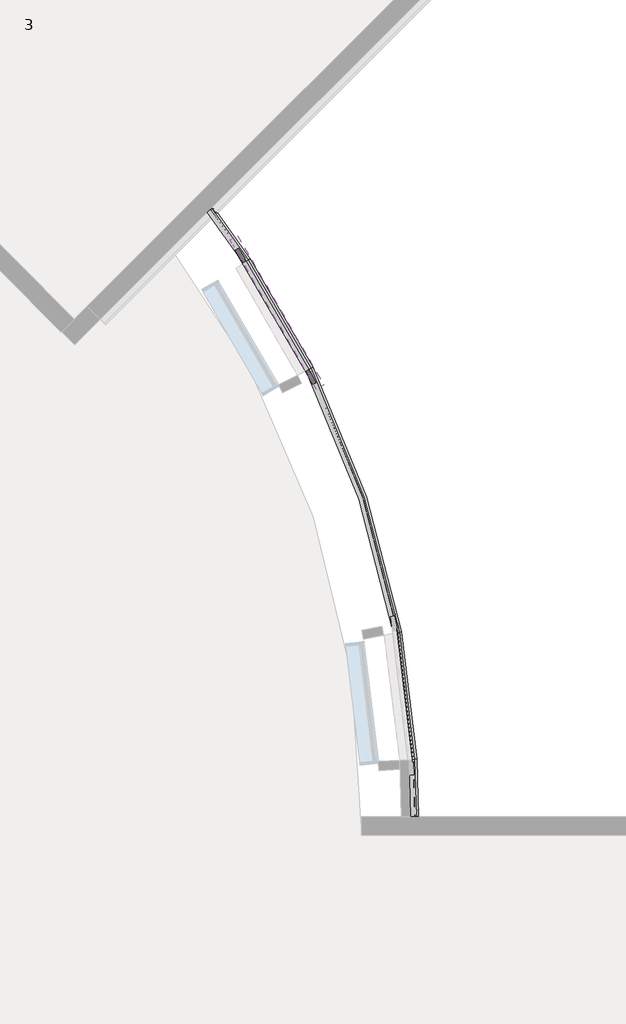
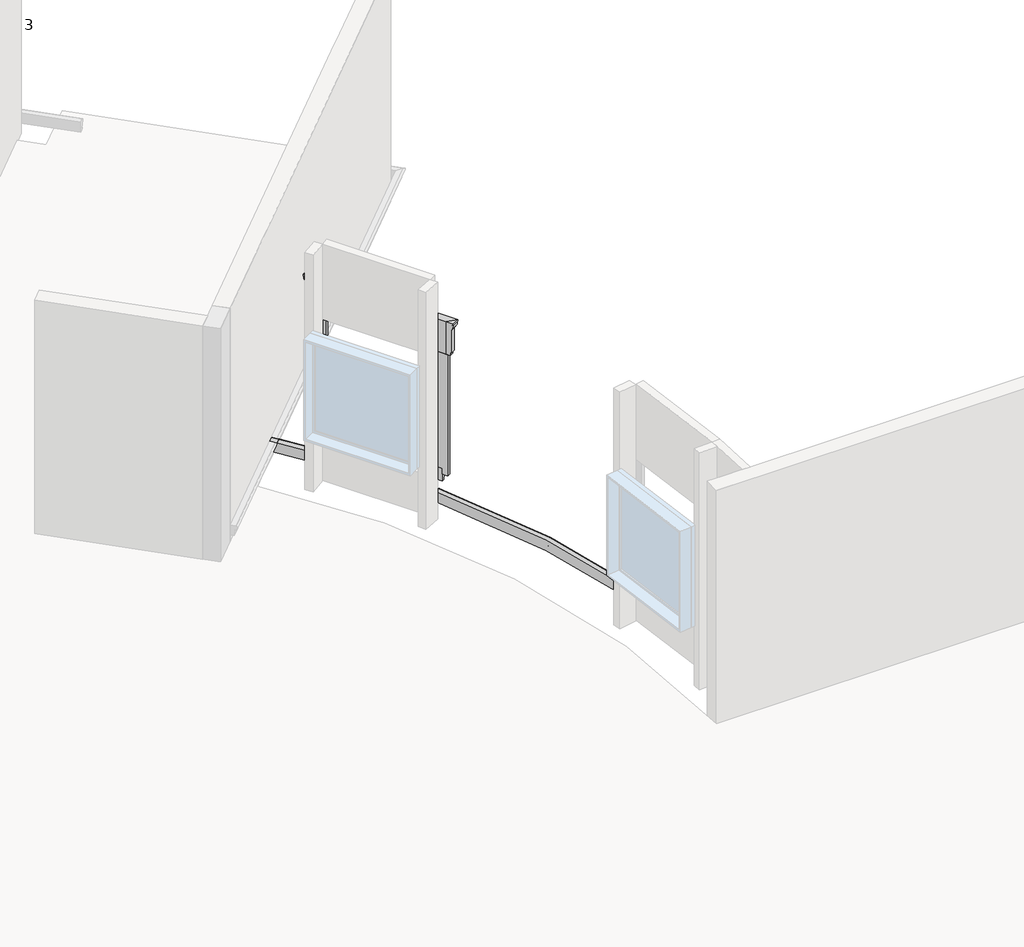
# One storey, part 11 of 12: 5 proxies.
"""IFC4 building model written with IfcOpenShell, lengths in millimetres."""

from ifc_helpers import new_model, si_unit, point, frame, origin, place, context, project, spatial, polyline, circle_curve, ellipse_curve, trimmed, outline, extrude, element, save
from ifc_brep_helpers import plane_surface, cylinder_surface, revolved_surface, advanced_brep

model = new_model("IFC4")

# Units and contexts
model_context = context("Model", 3, world=origin())
ifc_project = project(units=[si_unit("LENGTHUNIT", "METRE", prefix="MILLI")], contexts=[model_context])

# Site, building, storey
site = spatial("IfcSite", under=ifc_project)
building = spatial("IfcBuilding", under=site)
storey = spatial("IfcBuildingStorey", under=building, Name="3", Elevation=3581.4)

# Proxies
placement = place(None, origin())
element("IfcBuildingElementProxy", 1, Name="Cornice", ObjectType="Cornice", at=placement, inside=storey, context=model_context, shape_type="SweptSolid", body=[
    extrude(outline(polyline([(1846.6968284, 7574.7665697), (1888.9764904, 7602.9280715), (1973.4609956, 7476.0890854), (1962.8910801, 7469.04871), (1980.4920187, 7442.6239212), (1948.7822721, 7421.5027949), (1846.6968284, 7574.7665697)])), frame((0.0, 0.0, 4191.0), z_axis=(0.0, 0.0, 1.0), x_axis=(1.0, 0.0, 0.0)), (0.0, 0.0, 1.0), 1828.8),
])
element("IfcBuildingElementProxy", 2, Name="Cornice", ObjectType="Cornice", at=placement, inside=storey, context=model_context, shape_type="SweptSolid", body=[
    extrude(outline(polyline([(2811.2385961, 5908.9981237), (2729.1339635, 6073.8315299), (2763.2374269, 6090.8186953), (2777.393398, 6062.3991425), (2788.7612191, 6068.0615309), (2856.7098806, 5931.6476775), (2811.2385961, 5908.9981237)])), frame((0.0, 0.0, 4191.0), z_axis=(0.0, 0.0, 1.0), x_axis=(1.0, 0.0, 0.0)), (0.0, 0.0, 1.0), 1828.8),
])
element("IfcBuildingElementProxy", 3, Name="Cornice", ObjectType="Cornice", at=placement, inside=storey, context=model_context, shape_type="AdvancedBrep", body=[
    advanced_brep(
    [(1867.4940839, 7542.0087132, 4273.55), (1909.4412788, 7570.6630817, 4273.55), (1909.4412788, 7570.6630817, 4121.15), (1898.9544801, 7563.4994896, 4121.15), (1898.9544801, 7563.4994896, 4089.4), (1867.4940839, 7542.0087132, 4089.4), (2774.0648933, 5982.6959353, 4273.55), (2774.0648933, 5982.6959353, 4089.4), (2808.3061816, 5999.4035436, 4089.4), (2808.3061816, 5999.4035436, 4121.15), (2819.7199443, 6004.9727464, 4121.15), (2819.7199443, 6004.9727464, 4273.55)],
    [
        (0, 1),
        (1, 2),
        (2, 3),
        (3, 4),
        (4, 5),
        (5, 0),
        (6, 7),
        (7, 8),
        (8, 9),
        (9, 10),
        (10, 11),
        (11, 6),
        (11, 1, circle_curve(frame((-8388.5950907, 536.015621, 4273.55), z_axis=(0.0, 0.0, 1.0), x_axis=(0.825732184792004, 0.5640623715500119, 0.0)), 12471.4000002)),
        (0, 6, circle_curve(frame((-8388.5950907, 536.015621, 4273.55), z_axis=(0.0, 0.0, -1.0), x_axis=(0.825732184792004, 0.5640623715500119, 0.0)), 12420.6000002)),
        (10, 2, circle_curve(frame((-8388.5950907, 536.015621, 4121.15), z_axis=(0.0, 0.0, 1.0), x_axis=(0.825732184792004, 0.5640623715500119, 0.0)), 12471.4000002)),
        (9, 3, circle_curve(frame((-8388.5950907, 536.015621, 4121.15), z_axis=(0.0, 0.0, 1.0), x_axis=(0.825732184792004, 0.5640623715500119, 0.0)), 12458.7000002)),
        (8, 4, circle_curve(frame((-8388.5950907, 536.015621, 4089.4), z_axis=(0.0, 0.0, 1.0), x_axis=(0.825732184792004, 0.5640623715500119, 0.0)), 12458.7000002)),
        (7, 5, circle_curve(frame((-8388.5950907, 536.015621, 4089.4), z_axis=(0.0, 0.0, 1.0), x_axis=(0.825732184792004, 0.5640623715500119, 0.0)), 12420.6000002)),
    ],
    [
        plane_surface(frame((-8388.5950907, 536.015621, 4089.4), z_axis=(-0.5640623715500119, 0.825732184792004, 0.0), x_axis=(0.825732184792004, 0.5640623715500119, 0.0))),
        plane_surface(frame((-8388.5950907, 536.015621, 4089.4), z_axis=(0.43851990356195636, -0.8987214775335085, 0.0), x_axis=(0.8987214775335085, 0.43851990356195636, 0.0))),
        plane_surface(frame((-8388.5950907, 536.015621, 4273.55), z_axis=(0.0, 0.0, 1.0), x_axis=(0.825732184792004, 0.5640623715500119, 0.0))),
        cylinder_surface(frame((-8388.5950907, 536.015621, 4089.4), z_axis=(0.0, 0.0, -1.0), x_axis=(0.825732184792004, 0.5640623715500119, 0.0)), 12471.4000002),
        plane_surface(frame((-8388.5950907, 536.015621, 4121.15), z_axis=(0.0, 0.0, -1.0), x_axis=(0.825732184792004, 0.5640623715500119, 0.0))),
        cylinder_surface(frame((-8388.5950907, 536.015621, 4089.4), z_axis=(0.0, 0.0, -1.0), x_axis=(0.825732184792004, 0.5640623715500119, 0.0)), 12458.7000002),
        plane_surface(frame((-8388.5950907, 536.015621, 4089.4), z_axis=(0.0, 0.0, -1.0), x_axis=(0.825732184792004, 0.5640623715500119, 0.0))),
        revolved_surface(polyline([(1867.4940838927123, 7542.008713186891, 4089.4), (1867.4940838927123, 7542.008713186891, 4273.55)]), (-8388.5950907, 536.015621, 4089.4), (0.0, 0.0, -1.0)),
    ],
    [
        (0, [[1, 2, 3, 4, 5, 6]]),
        (1, [[7, 8, 9, 10, 11, 12]]),
        (2, [[13, -1, 14, -12]]),
        (3, [[15, -2, -13, -11]]),
        (4, [[16, -3, -15, -10]]),
        (5, [[17, -4, -16, -9]]),
        (6, [[18, -5, -17, -8]]),
        (7, [[-14, -6, -18, -7]]),
    ],
),
])
element("IfcBuildingElementProxy", 4, Name="Cornice 2", ObjectType="Cornice 2", at=placement, inside=storey, context=model_context, shape_type="AdvancedBrep", body=[
    advanced_brep(
    [(1784.8464348, 7705.991218, 6515.1), (1784.8464348, 7705.991218, 6489.7), (1794.3884596, 7689.503275, 6489.7), (1794.3884596, 7689.503275, 6438.9), (1794.3884596, 7689.503275, 6419.85), (1802.1557463, 7676.0819539, 6419.85), (1802.1557463, 7676.0819539, 6064.25), (1808.5170961, 7665.0899919, 6064.25), (1808.5170961, 7665.0899919, 6019.8), (1838.9179087, 7612.5595413, 6019.8), (1838.9179087, 7612.5595413, 6515.1), (1878.2781115, 7760.0626919, 6515.1), (1878.2781115, 7760.0626919, 6489.7), (1871.3321933, 7734.0327241, 6489.7), (1871.3321933, 7734.0327241, 6438.9), (1871.3321933, 7734.0327241, 6419.85), (1865.6781589, 7712.8441163, 6419.85), (1865.6781589, 7712.8441163, 6064.25), (1861.0475468, 7695.4908045, 6064.25), (1861.0475468, 7695.4908045, 6019.8), (2953.3462404, 5902.4211204, 6515.1), (2953.3462404, 5902.4211204, 6489.7), (2927.3162726, 5909.3670385, 6489.7), (2927.3162726, 5909.3670385, 6438.9), (2927.3162726, 5909.3670385, 6419.85), (2906.1276648, 5915.021073, 6419.85), (2906.1276648, 5915.021073, 6064.25), (2888.774353, 5919.6516851, 6064.25), (2888.774353, 5919.6516851, 6019.8), (2805.8430898, 5941.7813231, 6019.8), (2805.8430898, 5941.7813231, 6515.1), (2859.9145637, 5848.3496465, 6515.1), (2836.2439024, 5889.2508725, 6019.8), (2836.2439024, 5889.2508725, 6064.25), (2842.6052522, 5878.2589106, 6064.25), (2842.6052522, 5878.2589106, 6419.85), (2850.3725389, 5864.8375894, 6419.85), (2850.3725389, 5864.8375894, 6438.9), (2850.3725389, 5864.8375894, 6489.7), (2859.9145637, 5848.3496465, 6489.7)],
    [
        (0, 1),
        (1, 2),
        (2, 3, circle_curve(frame((1800.6135369, 7678.7467824, 6464.3), z_axis=(-0.8655088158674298, -0.500893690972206, 0.0), x_axis=(-0.500893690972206, 0.8655088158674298, 0.0)), 28.2774419)),
        (3, 4),
        (4, 5),
        (5, 6),
        (6, 7),
        (7, 8),
        (8, 9),
        (9, 10),
        (10, 0),
        (0, 11),
        (11, 12),
        (12, 1),
        (12, 13),
        (13, 2),
        (13, 14, ellipse_curve(frame((1866.800778, 7717.0511542, 6464.3), z_axis=(-0.9661924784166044, 0.2578218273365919, 0.0), x_axis=(-0.2578218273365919, -0.9661924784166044, 0.0)), 39.9903419, 28.2774419)),
        (14, 3),
        (14, 15),
        (15, 4),
        (15, 16),
        (16, 5),
        (16, 17),
        (17, 6),
        (17, 18),
        (18, 7),
        (18, 19),
        (19, 8),
        (19, 9),
        (10, 11),
        (11, 20),
        (20, 21),
        (21, 12),
        (21, 22),
        (22, 13),
        (22, 23, ellipse_curve(frame((2910.3347027, 5913.8984539, 6464.3), z_axis=(0.2578218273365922, 0.9661924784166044, 0.0), x_axis=(-0.9661924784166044, 0.25782182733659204, 0.0)), 39.9903419, 28.2774419)),
        (23, 14),
        (23, 24),
        (24, 15),
        (24, 25),
        (25, 16),
        (25, 26),
        (26, 17),
        (26, 27),
        (27, 18),
        (27, 28),
        (28, 19),
        (28, 29),
        (29, 9),
        (29, 30),
        (30, 10),
        (30, 20),
        (31, 30),
        (29, 32),
        (32, 33),
        (33, 34),
        (34, 35),
        (35, 36),
        (36, 37),
        (37, 38, circle_curve(frame((2844.1474616, 5875.594082, 6464.3), z_axis=(-0.8655088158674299, -0.5008936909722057, 0.0), x_axis=(0.5008936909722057, -0.8655088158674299, 0.0)), 28.2774419)),
        (38, 39),
        (39, 31),
        (20, 31),
        (39, 21),
        (38, 22),
        (37, 23),
        (36, 24),
        (35, 25),
        (34, 26),
        (33, 27),
        (32, 28),
    ],
    [
        plane_surface(frame((1955.0831827, 7411.8341767, 6019.8), z_axis=(-0.8655088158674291, -0.5008936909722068, 0.0), x_axis=(-0.5008936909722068, 0.8655088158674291, 0.0))),
        plane_surface(frame((1784.8464348, 7705.991218, 6515.1), z_axis=(-0.5008936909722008, 0.8655088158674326, 0.0), x_axis=(0.8655088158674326, 0.5008936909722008, 0.0))),
        plane_surface(frame((1784.8464348, 7705.991218, 6489.7), z_axis=(0.0, 0.0, -1.0), x_axis=(0.8655088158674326, 0.5008936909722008, 0.0))),
        cylinder_surface(frame((1800.6135369, 7678.7467824, 6464.3), z_axis=(-0.8655088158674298, -0.500893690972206, 0.0), x_axis=(-0.500893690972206, 0.8655088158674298, 0.0)), 28.2774419),
        plane_surface(frame((1794.3884596, 7689.503275, 6438.9), z_axis=(-0.500893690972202, 0.8655088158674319, 0.0), x_axis=(0.8655088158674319, 0.500893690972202, 0.0))),
        plane_surface(frame((1794.3884596, 7689.503275, 6419.85), z_axis=(0.0, 0.0, -1.0), x_axis=(0.8655088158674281, 0.5008936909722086, 0.0))),
        plane_surface(frame((1802.1557463, 7676.0819539, 6419.85), z_axis=(-0.500893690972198, 0.8655088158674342, 0.0), x_axis=(0.8655088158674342, 0.500893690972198, 0.0))),
        plane_surface(frame((1802.1557463, 7676.0819539, 6064.25), z_axis=(0.0, 0.0, -1.0), x_axis=(0.8655088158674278, 0.5008936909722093, 0.0))),
        plane_surface(frame((1808.5170961, 7665.0899919, 6064.25), z_axis=(-0.5008936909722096, 0.8655088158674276, 0.0), x_axis=(0.8655088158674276, 0.5008936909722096, 0.0))),
        plane_surface(frame((1808.5170961, 7665.0899919, 6019.8), z_axis=(0.0, 0.0, -1.0), x_axis=(0.8655088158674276, 0.5008936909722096, 0.0))),
        plane_surface(frame((1838.9179087, 7612.5595413, 6515.1), z_axis=(0.0, 0.0, 1.0000000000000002), x_axis=(0.8655088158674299, 0.5008936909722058, 0.0))),
        plane_surface(frame((1878.2781115, 7760.0626919, 6515.1), z_axis=(0.8655088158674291, 0.5008936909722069, 0.0), x_axis=(0.5008936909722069, -0.8655088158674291, 0.0))),
        plane_surface(frame((1878.2781115, 7760.0626919, 6489.7), z_axis=(0.0, 0.0, -1.0), x_axis=(0.5008936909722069, -0.8655088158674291, 0.0))),
        cylinder_surface(frame((1905.1051498, 7650.8639131, 6464.3), z_axis=(-0.5008936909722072, 0.865508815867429, 0.0), x_axis=(0.865508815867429, 0.5008936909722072, 0.0)), 28.2774419),
        plane_surface(frame((1871.3321933, 7734.0327241, 6438.9), z_axis=(0.8655088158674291, 0.5008936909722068, 0.0), x_axis=(0.5008936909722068, -0.8655088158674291, 0.0))),
        plane_surface(frame((1871.3321933, 7734.0327241, 6419.85), z_axis=(0.0, 0.0, -1.0000000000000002), x_axis=(0.500893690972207, -0.8655088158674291, 0.0))),
        plane_surface(frame((1865.6781589, 7712.8441163, 6419.85), z_axis=(0.8655088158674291, 0.5008936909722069, 0.0), x_axis=(0.5008936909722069, -0.8655088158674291, 0.0))),
        plane_surface(frame((1865.6781589, 7712.8441163, 6064.25), z_axis=(0.0, 0.0, -1.0000000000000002), x_axis=(0.5008936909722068, -0.8655088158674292, 0.0))),
        plane_surface(frame((1861.0475468, 7695.4908045, 6064.25), z_axis=(0.8655088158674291, 0.5008936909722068, 0.0), x_axis=(0.5008936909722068, -0.8655088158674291, 0.0))),
        plane_surface(frame((1861.0475468, 7695.4908045, 6019.8), z_axis=(0.0, 0.0, -1.0), x_axis=(0.5008936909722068, -0.8655088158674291, 0.0))),
        plane_surface(frame((1838.9179087, 7612.5595413, 6019.8), z_axis=(-0.865508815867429, -0.500893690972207, 0.0), x_axis=(0.500893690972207, -0.865508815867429, 0.0))),
        plane_surface(frame((1838.9179087, 7612.5595413, 6515.1), z_axis=(0.0, 0.0, 1.0), x_axis=(0.500893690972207, -0.865508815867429, 0.0))),
        plane_surface(frame((2953.3462404, 5902.4211204, 6515.1), z_axis=(0.5008936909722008, -0.8655088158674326, 0.0), x_axis=(-0.8655088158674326, -0.5008936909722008, 0.0))),
        plane_surface(frame((2953.3462404, 5902.4211204, 6489.7), z_axis=(0.0, 0.0, -1.0), x_axis=(-0.8655088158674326, -0.5008936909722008, 0.0))),
        cylinder_surface(frame((2844.1474616, 5875.594082, 6464.3), z_axis=(0.8655088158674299, 0.5008936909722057, 0.0), x_axis=(0.5008936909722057, -0.8655088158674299, 0.0)), 28.2774419),
        plane_surface(frame((2927.3162726, 5909.3670385, 6438.9), z_axis=(0.5008936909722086, -0.8655088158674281, 0.0), x_axis=(-0.8655088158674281, -0.5008936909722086, 0.0))),
        plane_surface(frame((2927.3162726, 5909.3670385, 6419.85), z_axis=(0.0, 0.0, -1.0000000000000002), x_axis=(-0.8655088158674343, -0.500893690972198, 0.0))),
        plane_surface(frame((2906.1276648, 5915.021073, 6419.85), z_axis=(0.5008936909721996, -0.8655088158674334, 0.0), x_axis=(-0.8655088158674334, -0.5008936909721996, 0.0))),
        plane_surface(frame((2906.1276648, 5915.021073, 6064.25), z_axis=(0.0, 0.0, -1.0), x_axis=(-0.8655088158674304, -0.5008936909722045, 0.0))),
        plane_surface(frame((2888.774353, 5919.6516851, 6064.25), z_axis=(0.5008936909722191, -0.8655088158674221, 0.0), x_axis=(-0.8655088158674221, -0.5008936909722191, 0.0))),
        plane_surface(frame((2888.774353, 5919.6516851, 6019.8), z_axis=(0.0, 0.0, -1.0), x_axis=(-0.8655088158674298, -0.5008936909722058, 0.0))),
        plane_surface(frame((2805.8430898, 5941.7813231, 6515.1), z_axis=(0.0, 0.0, 1.0000000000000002), x_axis=(-0.8655088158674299, -0.5008936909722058, 0.0))),
    ],
    [
        (0, [[1, 2, 3, 4, 5, 6, 7, 8, 9, 10, 11]]),
        (1, [[-1, 12, 13, 14]]),
        (2, [[-2, -14, 15, 16]]),
        (3, [[-3, -16, 17, 18]]),
        (4, [[-4, -18, 19, 20]]),
        (5, [[-5, -20, 21, 22]]),
        (6, [[-6, -22, 23, 24]]),
        (7, [[-7, -24, 25, 26]]),
        (8, [[-8, -26, 27, 28]]),
        (9, [[-9, -28, 29]]),
        (10, [[-11, 30, -12]]),
        (11, [[-13, 31, 32, 33]]),
        (12, [[-15, -33, 34, 35]]),
        (13, [[-17, -35, 36, 37]]),
        (14, [[-19, -37, 38, 39]]),
        (15, [[-21, -39, 40, 41]]),
        (16, [[-23, -41, 42, 43]]),
        (17, [[-25, -43, 44, 45]]),
        (18, [[-27, -45, 46, 47]]),
        (19, [[-29, -47, 48, 49]]),
        (20, [[-10, -49, 50, 51]]),
        (21, [[-30, -51, 52, -31]]),
        (0, [[53, -50, 54, 55, 56, 57, 58, 59, 60, 61, 62]]),
        (22, [[-32, 63, -62, 64]]),
        (23, [[-34, -64, -61, 65]]),
        (24, [[-36, -65, -60, 66]]),
        (25, [[-38, -66, -59, 67]]),
        (26, [[-40, -67, -58, 68]]),
        (27, [[-42, -68, -57, 69]]),
        (28, [[-44, -69, -56, 70]]),
        (29, [[-46, -70, -55, 71]]),
        (30, [[-48, -71, -54]]),
        (31, [[-52, -53, -63]]),
    ],
),
])
element("IfcBuildingElementProxy", 5, Name="Cornice 3", ObjectType="Cornice 3", at=placement, inside=storey, context=model_context, shape_type="AdvancedBrep", body=[
    advanced_brep(
    [(4108.2045114, 532.861436, 3886.2), (4032.0045138, 532.8806689, 3886.2), (4032.0045138, 532.8806689, 3733.8), (4082.8045122, 532.867847, 3733.8), (4082.8045122, 532.867847, 3752.85), (4082.8045122, 532.867847, 3771.9), (4082.8045122, 532.867847, 3797.3), (4089.948262, 532.8660439, 3797.3), (4108.2045114, 532.861436, 3826.7009114), (4108.2045114, 532.861436, 3841.75), (4087.9843508, 1246.6320321, 3841.75), (4087.9843508, 1246.6320321, 3886.2), (4087.9843508, 1246.6320321, 3826.7009114), (4069.7576405, 1245.5939111, 3797.3), (4062.6254495, 1245.1876898, 3797.3), (4062.6254495, 1245.1876898, 3771.9), (4062.6254495, 1245.1876898, 3752.85), (4062.6254495, 1245.1876898, 3733.8), (4011.9076469, 1242.2990052, 3733.8), (4011.9076469, 1242.2990052, 3886.2)],
    [
        (0, 1),
        (1, 2),
        (2, 3),
        (3, 4),
        (4, 5, circle_curve(frame((4082.8045122, 532.867847, 3762.375), z_axis=(-0.00025239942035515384, -0.9999999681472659, 0.0), x_axis=(-0.9999999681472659, 0.00025239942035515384, 0.0)), 9.525)),
        (5, 6),
        (6, 7),
        (7, 8, circle_curve(frame((4111.4609098, 532.8606141, 3804.3103895), z_axis=(0.00025239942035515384, 0.9999999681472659, 0.0), x_axis=(-0.9999999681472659, 0.00025239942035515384, 0.0)), 22.6260824)),
        (8, 9),
        (9, 0, circle_curve(frame((4108.2045114, 532.861436, 3863.975), z_axis=(-0.00025239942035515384, -0.9999999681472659, 0.0), x_axis=(-0.9999999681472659, 0.00025239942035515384, 0.0)), 22.225)),
        (9, 10, circle_curve(frame((-8388.5950906, 536.0156211, 3841.75), z_axis=(0.0, 0.0, 1.0), x_axis=(0.9983819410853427, 0.05686387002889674, 0.0)), 12496.8)),
        (10, 11, circle_curve(frame((4087.9843508, 1246.6320321, 3863.975), z_axis=(0.05686387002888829, -0.9983819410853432, 0.0), x_axis=(-0.9983819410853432, -0.05686387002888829, 0.0)), 22.225)),
        (11, 0, circle_curve(frame((-8388.5950906, 536.0156211, 3886.2), z_axis=(0.0, 0.0, -1.0), x_axis=(0.9983819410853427, 0.05686387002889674, 0.0)), 12496.8)),
        (8, 12, circle_curve(frame((-8388.5950906, 536.0156211, 3826.7009114), z_axis=(0.0, 0.0, 1.0), x_axis=(0.9983819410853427, 0.05686387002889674, 0.0)), 12496.8)),
        (12, 10),
        (7, 13, circle_curve(frame((-8388.5950906, 536.0156211, 3797.3), z_axis=(0.0, 0.0, 1.0), x_axis=(0.9983819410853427, 0.05686387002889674, 0.0)), 12478.54375)),
        (13, 12, circle_curve(frame((4091.2354802, 1246.8172035, 3804.3103895), z_axis=(-0.056863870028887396, 0.9983819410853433, 0.0), x_axis=(-0.9983819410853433, -0.056863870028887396, 0.0)), 22.6260824)),
        (6, 14, circle_curve(frame((-8388.5950906, 536.0156211, 3797.3), z_axis=(0.0, 0.0, 1.0), x_axis=(0.9983819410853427, 0.05686387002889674, 0.0)), 12471.4)),
        (14, 13),
        (5, 15, circle_curve(frame((-8388.5950906, 536.0156211, 3771.9), z_axis=(0.0, 0.0, 1.0), x_axis=(0.9983819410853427, 0.05686387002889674, 0.0)), 12471.4)),
        (15, 14),
        (4, 16, circle_curve(frame((-8388.5950906, 536.0156211, 3752.85), z_axis=(0.0, 0.0, 1.0), x_axis=(0.9983819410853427, 0.05686387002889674, 0.0)), 12471.4)),
        (16, 15, circle_curve(frame((4062.6254495, 1245.1876898, 3762.375), z_axis=(0.05686387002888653, -0.9983819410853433, 0.0), x_axis=(-0.9983819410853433, -0.05686387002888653, 0.0)), 9.525)),
        (3, 17, circle_curve(frame((-8388.5950906, 536.0156211, 3733.8), z_axis=(0.0, 0.0, 1.0), x_axis=(0.9983819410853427, 0.05686387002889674, 0.0)), 12471.4)),
        (17, 16),
        (2, 18, circle_curve(frame((-8388.5950906, 536.0156211, 3733.8), z_axis=(0.0, 0.0, 1.0), x_axis=(0.9983819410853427, 0.05686387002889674, 0.0)), 12420.6)),
        (18, 17),
        (1, 19, circle_curve(frame((-8388.5950906, 536.0156211, 3886.2), z_axis=(0.0, 0.0, 1.0), x_axis=(0.9983819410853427, 0.05686387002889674, 0.0)), 12420.6)),
        (19, 18),
        (11, 19),
    ],
    [
        plane_surface(frame((-8388.5950906, 536.0156211, 3733.8), z_axis=(-0.00025239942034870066, -0.9999999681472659, 0.0), x_axis=(0.9999999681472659, -0.00025239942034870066, 0.0))),
        revolved_surface(trimmed(ellipse_curve(frame((4087.9843508, 1246.6320321, 3863.975), z_axis=(-0.056863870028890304, 0.9983819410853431, 0.0), x_axis=(-0.9983819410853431, -0.056863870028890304, 0.0)), 22.225, 22.225), [point((4087.9843508, 1246.6320321, 3886.2))], [point((4087.9843508, 1246.6320321, 3841.75))], True, "CARTESIAN"), (-8388.5950906, 536.0156211, 3733.8), (0.0, 0.0, -1.0)),
        cylinder_surface(frame((-8388.5950906, 536.0156211, 3733.8), z_axis=(0.0, 0.0, -1.0), x_axis=(0.9983819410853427, 0.05686387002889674, 0.0)), 12496.8),
        revolved_surface(trimmed(ellipse_curve(frame((4091.2354802, 1246.8172035, 3804.3103895), z_axis=(0.056863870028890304, -0.9983819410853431, 0.0), x_axis=(-0.9983819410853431, -0.056863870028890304, 0.0)), 22.6260824, 22.6260824), [point((4087.9843508, 1246.6320321, 3826.7009114))], [point((4069.7576405, 1245.5939111, 3797.3))], True, "CARTESIAN"), (-8388.5950906, 536.0156211, 3733.8), (0.0, 0.0, -1.0)),
        plane_surface(frame((-8388.5950906, 536.0156211, 3797.3), z_axis=(0.0, 0.0, -1.0), x_axis=(0.9983819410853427, 0.05686387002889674, 0.0))),
        cylinder_surface(frame((-8388.5950906, 536.0156211, 3733.8), z_axis=(0.0, 0.0, -1.0), x_axis=(0.9983819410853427, 0.05686387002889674, 0.0)), 12471.4),
        revolved_surface(trimmed(ellipse_curve(frame((4062.6254495, 1245.1876898, 3762.375), z_axis=(-0.056863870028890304, 0.9983819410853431, 0.0), x_axis=(-0.9983819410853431, -0.056863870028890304, 0.0)), 9.525, 9.525), [point((4062.6254495, 1245.1876898, 3771.9))], [point((4062.6254495, 1245.1876898, 3752.85))], True, "CARTESIAN"), (-8388.5950906, 536.0156211, 3733.8), (0.0, 0.0, -1.0)),
        plane_surface(frame((-8388.5950906, 536.0156211, 3733.8), z_axis=(0.0, 0.0, -1.0), x_axis=(0.9983819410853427, 0.05686387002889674, 0.0))),
        revolved_surface(polyline([(4011.907646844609, 1242.2990051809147, 3733.8), (4011.907646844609, 1242.2990051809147, 3886.2)]), (-8388.5950906, 536.0156211, 3733.8), (0.0, 0.0, -1.0)),
        plane_surface(frame((-8388.5950906, 536.0156211, 3886.2), z_axis=(0.0, 0.0, 1.0), x_axis=(0.9983819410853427, 0.05686387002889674, 0.0))),
        plane_surface(frame((4316.2144625, 1259.6311128, 3733.8), z_axis=(-0.05686387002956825, 0.9983819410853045, 0.0), x_axis=(0.0, 0.0, 1.0))),
    ],
    [
        (0, [[1, 2, 3, 4, 5, 6, 7, 8, 9, 10]]),
        (1, [[11, 12, 13, -10]]),
        (2, [[14, 15, -11, -9]]),
        (3, [[16, 17, -14, -8]]),
        (4, [[18, 19, -16, -7]]),
        (5, [[20, 21, -18, -6]]),
        (6, [[22, 23, -20, -5]]),
        (5, [[24, 25, -22, -4]]),
        (7, [[26, 27, -24, -3]]),
        (8, [[28, 29, -26, -2]]),
        (9, [[-13, 30, -28, -1]]),
        (10, [[-12, -15, -17, -19, -21, -23, -25, -27, -29, -30]]),
    ],
),
    advanced_brep(
    [(4087.9843508, 1246.6320321, 3841.75), (3896.7156351, 2825.3715596, 3841.75), (3896.7156351, 2825.3715596, 3886.2), (4087.9843508, 1246.6320321, 3886.2), (4087.9843508, 1246.6320321, 3826.7009114), (3896.7156351, 2825.3715596, 3826.7009114), (4069.7576405, 1245.5939111, 3797.3), (3878.7683443, 2822.027099, 3797.3), (4062.6254495, 1245.1876898, 3797.3), (3871.7454914, 2820.7183971, 3797.3), (4062.6254495, 1245.1876898, 3771.9), (3871.7454914, 2820.7183971, 3771.9), (4062.6254495, 1245.1876898, 3752.85), (3871.7454914, 2820.7183971, 3752.85), (4062.6254495, 1245.1876898, 3733.8), (3871.7454914, 2820.7183971, 3733.8), (4011.9076469, 1242.2990052, 3733.8), (3821.8052039, 2811.4120721, 3733.8), (4011.9076469, 1242.2990052, 3886.2), (3821.8052039, 2811.4120721, 3886.2)],
    [
        (0, 1, circle_curve(frame((-8388.5950906, 536.0156211, 3841.75), z_axis=(0.0, 0.0, 1.0), x_axis=(0.9830765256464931, 0.1831953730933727, 0.0)), 12496.8)),
        (1, 2, circle_curve(frame((3896.7156351, 2825.3715596, 3863.975), z_axis=(0.18319537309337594, -0.9830765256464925, 0.0), x_axis=(-0.9830765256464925, -0.18319537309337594, 0.0)), 22.225)),
        (2, 3, circle_curve(frame((-8388.5950906, 536.0156211, 3886.2), z_axis=(0.0, 0.0, -1.0), x_axis=(0.9830765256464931, 0.1831953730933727, 0.0)), 12496.8)),
        (3, 0, circle_curve(frame((4087.9843508, 1246.6320321, 3863.975), z_axis=(-0.056863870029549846, 0.9983819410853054, 0.0), x_axis=(-0.9983819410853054, -0.056863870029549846, 0.0)), 22.225)),
        (4, 5, circle_curve(frame((-8388.5950906, 536.0156211, 3826.7009114), z_axis=(0.0, 0.0, 1.0), x_axis=(0.9830765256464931, 0.1831953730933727, 0.0)), 12496.8)),
        (5, 1),
        (0, 4),
        (6, 7, circle_curve(frame((-8388.5950906, 536.0156211, 3797.3), z_axis=(0.0, 0.0, 1.0), x_axis=(0.9830765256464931, 0.1831953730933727, 0.0)), 12478.54375)),
        (7, 5, circle_curve(frame((3899.916924, 2825.9681167, 3804.3103895), z_axis=(-0.18319537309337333, 0.983076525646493, 0.0), x_axis=(-0.983076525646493, -0.18319537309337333, 0.0)), 22.6260824)),
        (4, 6, circle_curve(frame((4091.2354802, 1246.8172035, 3804.3103895), z_axis=(0.05686387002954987, -0.9983819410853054, 0.0), x_axis=(-0.9983819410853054, -0.05686387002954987, 0.0)), 22.6260824)),
        (8, 9, circle_curve(frame((-8388.5950906, 536.0156211, 3797.3), z_axis=(0.0, 0.0, 1.0), x_axis=(0.9830765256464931, 0.1831953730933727, 0.0)), 12471.4)),
        (9, 7),
        (6, 8),
        (10, 11, circle_curve(frame((-8388.5950906, 536.0156211, 3771.9), z_axis=(0.0, 0.0, 1.0), x_axis=(0.9830765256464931, 0.1831953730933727, 0.0)), 12471.4)),
        (11, 9),
        (8, 10),
        (12, 13, circle_curve(frame((-8388.5950906, 536.0156211, 3752.85), z_axis=(0.0, 0.0, 1.0), x_axis=(0.9830765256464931, 0.1831953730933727, 0.0)), 12471.4)),
        (13, 11, circle_curve(frame((3871.7454914, 2820.7183971, 3762.375), z_axis=(0.1831953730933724, -0.9830765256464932, 0.0), x_axis=(-0.9830765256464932, -0.1831953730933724, 0.0)), 9.525)),
        (10, 12, circle_curve(frame((4062.6254495, 1245.1876898, 3762.375), z_axis=(-0.05686387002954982, 0.9983819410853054, 0.0), x_axis=(-0.9983819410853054, -0.05686387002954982, 0.0)), 9.525)),
        (14, 15, circle_curve(frame((-8388.5950906, 536.0156211, 3733.8), z_axis=(0.0, 0.0, 1.0), x_axis=(0.9830765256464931, 0.1831953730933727, 0.0)), 12471.4)),
        (15, 13),
        (12, 14),
        (16, 17, circle_curve(frame((-8388.5950906, 536.0156211, 3733.8), z_axis=(0.0, 0.0, 1.0), x_axis=(0.9830765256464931, 0.1831953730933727, 0.0)), 12420.6)),
        (17, 15),
        (14, 16),
        (18, 19, circle_curve(frame((-8388.5950906, 536.0156211, 3886.2), z_axis=(0.0, 0.0, 1.0), x_axis=(0.9830765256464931, 0.1831953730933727, 0.0)), 12420.6)),
        (19, 17),
        (16, 18),
        (2, 19),
        (18, 3),
    ],
    [
        revolved_surface(trimmed(ellipse_curve(frame((3896.7156351, 2825.3715596, 3863.975), z_axis=(-0.1831953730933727, 0.9830765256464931, 0.0), x_axis=(-0.9830765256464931, -0.1831953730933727, 0.0)), 22.225, 22.225), [point((3896.7156351, 2825.3715596, 3886.2))], [point((3896.7156351, 2825.3715596, 3841.75))], True, "CARTESIAN"), (-8388.5950906, 536.0156211, 3733.8), (0.0, 0.0, -1.0)),
        cylinder_surface(frame((-8388.5950906, 536.0156211, 3733.8), z_axis=(0.0, 0.0, -1.0), x_axis=(0.9830765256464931, 0.1831953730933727, 0.0)), 12496.8),
        revolved_surface(trimmed(ellipse_curve(frame((3899.916924, 2825.9681167, 3804.3103895), z_axis=(0.1831953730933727, -0.9830765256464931, 0.0), x_axis=(-0.9830765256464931, -0.1831953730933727, 0.0)), 22.6260824, 22.6260824), [point((3896.7156351, 2825.3715596, 3826.7009114))], [point((3878.7683443, 2822.027099, 3797.3))], True, "CARTESIAN"), (-8388.5950906, 536.0156211, 3733.8), (0.0, 0.0, -1.0)),
        plane_surface(frame((-8388.5950906, 536.0156211, 3797.3), z_axis=(0.0, 0.0, -1.0000000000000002), x_axis=(0.9830765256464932, 0.18319537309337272, 0.0))),
        cylinder_surface(frame((-8388.5950906, 536.0156211, 3733.8), z_axis=(0.0, 0.0, -1.0), x_axis=(0.9830765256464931, 0.1831953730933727, 0.0)), 12471.4),
        revolved_surface(trimmed(ellipse_curve(frame((3871.7454914, 2820.7183971, 3762.375), z_axis=(-0.1831953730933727, 0.9830765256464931, 0.0), x_axis=(-0.9830765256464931, -0.1831953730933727, 0.0)), 9.525, 9.525), [point((3871.7454914, 2820.7183971, 3771.9))], [point((3871.7454914, 2820.7183971, 3752.85))], True, "CARTESIAN"), (-8388.5950906, 536.0156211, 3733.8), (0.0, 0.0, -1.0)),
        plane_surface(frame((-8388.5950906, 536.0156211, 3733.8), z_axis=(0.0, 0.0, -1.0000000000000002), x_axis=(0.9830765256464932, 0.18319537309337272, 0.0))),
        revolved_surface(polyline([(3821.8052038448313, 2811.4120721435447, 3733.8), (3821.8052038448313, 2811.4120721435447, 3886.2)]), (-8388.5950906, 536.0156211, 3733.8), (0.0, 0.0, -1.0)),
        plane_surface(frame((-8388.5950906, 536.0156211, 3886.2), z_axis=(0.0, 0.0, 1.0000000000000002), x_axis=(0.9830765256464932, 0.18319537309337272, 0.0))),
        plane_surface(frame((4121.4469289, 2867.2500219, 3733.8), z_axis=(-0.18319537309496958, 0.9830765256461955, 0.0), x_axis=(0.0, 0.0, 1.0))),
        plane_surface(frame((4316.2144625, 1259.6311128, 3733.8), z_axis=(0.05686387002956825, -0.9983819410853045, 0.0), x_axis=(0.0, 0.0, 1.0))),
    ],
    [
        (0, [[1, 2, 3, 4]]),
        (1, [[5, 6, -1, 7]]),
        (2, [[8, 9, -5, 10]]),
        (3, [[11, 12, -8, 13]]),
        (4, [[14, 15, -11, 16]]),
        (5, [[17, 18, -14, 19]]),
        (4, [[20, 21, -17, 22]]),
        (6, [[23, 24, -20, 25]]),
        (7, [[26, 27, -23, 28]]),
        (8, [[-3, 29, -26, 30]]),
        (9, [[-2, -6, -9, -12, -15, -18, -21, -24, -27, -29]]),
        (10, [[-30, -28, -25, -22, -19, -16, -13, -10, -7, -4]]),
    ],
),
    advanced_brep(
    [(3896.7156351, 2825.3715596, 3841.75), (2796.3455232, 6109.8037142, 3841.75), (2796.3455232, 6109.8037142, 3886.2), (3896.7156351, 2825.3715596, 3886.2), (3896.7156351, 2825.3715596, 3826.7009114), (2796.3455232, 6109.8037142, 3826.7009114), (3878.7683443, 2822.027099, 3797.3), (2780.0057344, 6101.6611122, 3797.3), (3871.7454914, 2820.7183971, 3797.3), (2773.611904, 6098.4748766, 3797.3), (3871.7454914, 2820.7183971, 3771.9), (2773.611904, 6098.4748766, 3771.9), (3871.7454914, 2820.7183971, 3752.85), (2773.611904, 6098.4748766, 3752.85), (3871.7454914, 2820.7183971, 3733.8), (2773.611904, 6098.4748766, 3733.8), (3821.8052039, 2811.4120721, 3733.8), (2728.1446658, 6075.8172015, 3733.8), (3821.8052039, 2811.4120721, 3886.2), (2728.1446658, 6075.8172015, 3886.2)],
    [
        (0, 1, circle_curve(frame((-8388.5950906, 536.0156211, 3841.75), z_axis=(0.0, 0.0, 1.0), x_axis=(0.8950243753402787, 0.4460172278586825, 0.0)), 12496.8)),
        (1, 2, circle_curve(frame((2796.3455232, 6109.8037142, 3863.975), z_axis=(0.44601722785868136, -0.8950243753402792, 0.0), x_axis=(-0.8950243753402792, -0.44601722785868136, 0.0)), 22.225)),
        (2, 3, circle_curve(frame((-8388.5950906, 536.0156211, 3886.2), z_axis=(0.0, 0.0, -1.0), x_axis=(0.8950243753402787, 0.4460172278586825, 0.0)), 12496.8)),
        (3, 0, circle_curve(frame((3896.7156351, 2825.3715596, 3863.975), z_axis=(-0.18319537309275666, 0.9830765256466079, 0.0), x_axis=(-0.9830765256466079, -0.18319537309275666, 0.0)), 22.225)),
        (4, 5, circle_curve(frame((-8388.5950906, 536.0156211, 3826.7009114), z_axis=(0.0, 0.0, 1.0), x_axis=(0.8950243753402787, 0.4460172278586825, 0.0)), 12496.8)),
        (5, 1),
        (0, 4),
        (6, 7, circle_curve(frame((-8388.5950906, 536.0156211, 3797.3), z_axis=(0.0, 0.0, 1.0), x_axis=(0.8950243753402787, 0.4460172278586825, 0.0)), 12478.54375)),
        (7, 5, circle_curve(frame((2799.2600792, 6111.256124, 3804.3103895), z_axis=(-0.4460172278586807, 0.8950243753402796, 0.0), x_axis=(-0.8950243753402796, -0.4460172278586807, 0.0)), 22.6260824)),
        (4, 6, circle_curve(frame((3899.916924, 2825.9681167, 3804.3103895), z_axis=(0.18319537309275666, -0.9830765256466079, 0.0), x_axis=(-0.9830765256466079, -0.18319537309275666, 0.0)), 22.6260824)),
        (8, 9, circle_curve(frame((-8388.5950906, 536.0156211, 3797.3), z_axis=(0.0, 0.0, 1.0), x_axis=(0.8950243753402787, 0.4460172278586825, 0.0)), 12471.4)),
        (9, 7),
        (6, 8),
        (10, 11, circle_curve(frame((-8388.5950906, 536.0156211, 3771.9), z_axis=(0.0, 0.0, 1.0), x_axis=(0.8950243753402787, 0.4460172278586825, 0.0)), 12471.4)),
        (11, 9),
        (8, 10),
        (12, 13, circle_curve(frame((-8388.5950906, 536.0156211, 3752.85), z_axis=(0.0, 0.0, 1.0), x_axis=(0.8950243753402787, 0.4460172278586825, 0.0)), 12471.4)),
        (13, 11, circle_curve(frame((2773.611904, 6098.4748766, 3762.375), z_axis=(0.4460172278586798, -0.89502437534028, 0.0), x_axis=(-0.89502437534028, -0.4460172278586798, 0.0)), 9.525)),
        (10, 12, circle_curve(frame((3871.7454914, 2820.7183971, 3762.375), z_axis=(-0.18319537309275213, 0.9830765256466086, 0.0), x_axis=(-0.9830765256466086, -0.18319537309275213, 0.0)), 9.525)),
        (14, 15, circle_curve(frame((-8388.5950906, 536.0156211, 3733.8), z_axis=(0.0, 0.0, 1.0), x_axis=(0.8950243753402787, 0.4460172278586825, 0.0)), 12471.4)),
        (15, 13),
        (12, 14),
        (16, 17, circle_curve(frame((-8388.5950906, 536.0156211, 3733.8), z_axis=(0.0, 0.0, 1.0), x_axis=(0.8950243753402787, 0.4460172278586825, 0.0)), 12420.6)),
        (17, 15),
        (14, 16),
        (18, 19, circle_curve(frame((-8388.5950906, 536.0156211, 3886.2), z_axis=(0.0, 0.0, 1.0), x_axis=(0.8950243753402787, 0.4460172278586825, 0.0)), 12420.6)),
        (19, 17),
        (16, 18),
        (2, 19),
        (18, 3),
    ],
    [
        revolved_surface(trimmed(ellipse_curve(frame((2796.3455232, 6109.8037142, 3863.975), z_axis=(-0.4460172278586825, 0.8950243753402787, 0.0), x_axis=(-0.8950243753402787, -0.4460172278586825, 0.0)), 22.225, 22.225), [point((2796.3455232, 6109.8037142, 3886.2))], [point((2796.3455232, 6109.8037142, 3841.75))], True, "CARTESIAN"), (-8388.5950906, 536.0156211, 3733.8), (0.0, 0.0, -1.0)),
        cylinder_surface(frame((-8388.5950906, 536.0156211, 3733.8), z_axis=(0.0, 0.0, -1.0), x_axis=(0.8950243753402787, 0.4460172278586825, 0.0)), 12496.8),
        revolved_surface(trimmed(ellipse_curve(frame((2799.2600792, 6111.256124, 3804.3103895), z_axis=(0.4460172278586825, -0.8950243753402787, 0.0), x_axis=(-0.8950243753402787, -0.4460172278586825, 0.0)), 22.6260824, 22.6260824), [point((2796.3455232, 6109.8037142, 3826.7009114))], [point((2780.0057344, 6101.6611122, 3797.3))], True, "CARTESIAN"), (-8388.5950906, 536.0156211, 3733.8), (0.0, 0.0, -1.0)),
        plane_surface(frame((-8388.5950906, 536.0156211, 3797.3), z_axis=(0.0, 0.0, -1.0000000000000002), x_axis=(0.8950243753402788, 0.44601722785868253, 0.0))),
        cylinder_surface(frame((-8388.5950906, 536.0156211, 3733.8), z_axis=(0.0, 0.0, -1.0), x_axis=(0.8950243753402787, 0.4460172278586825, 0.0)), 12471.4),
        revolved_surface(trimmed(ellipse_curve(frame((2773.611904, 6098.4748766, 3762.375), z_axis=(-0.4460172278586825, 0.8950243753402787, 0.0), x_axis=(-0.8950243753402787, -0.4460172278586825, 0.0)), 9.525, 9.525), [point((2773.611904, 6098.4748766, 3771.9))], [point((2773.611904, 6098.4748766, 3752.85))], True, "CARTESIAN"), (-8388.5950906, 536.0156211, 3733.8), (0.0, 0.0, -1.0)),
        plane_surface(frame((-8388.5950906, 536.0156211, 3733.8), z_axis=(0.0, 0.0, -1.0000000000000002), x_axis=(0.8950243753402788, 0.44601722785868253, 0.0))),
        revolved_surface(polyline([(2728.144665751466, 6075.817201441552, 3733.8), (2728.144665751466, 6075.817201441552, 3886.2)]), (-8388.5950906, 536.0156211, 3733.8), (0.0, 0.0, -1.0)),
        plane_surface(frame((-8388.5950906, 536.0156211, 3886.2), z_axis=(0.0, 0.0, 1.0000000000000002), x_axis=(0.8950243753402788, 0.44601722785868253, 0.0))),
        plane_surface(frame((3000.9480954, 6211.7632525, 3733.8), z_axis=(-0.4460172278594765, 0.895024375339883, 0.0), x_axis=(0.0, 0.0, 1.0))),
        plane_surface(frame((4121.4469289, 2867.2500219, 3733.8), z_axis=(0.18319537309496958, -0.9830765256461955, 0.0), x_axis=(0.0, 0.0, 1.0))),
    ],
    [
        (0, [[1, 2, 3, 4]]),
        (1, [[5, 6, -1, 7]]),
        (2, [[8, 9, -5, 10]]),
        (3, [[11, 12, -8, 13]]),
        (4, [[14, 15, -11, 16]]),
        (5, [[17, 18, -14, 19]]),
        (4, [[20, 21, -17, 22]]),
        (6, [[23, 24, -20, 25]]),
        (7, [[26, 27, -23, 28]]),
        (8, [[-3, 29, -26, 30]]),
        (9, [[-2, -6, -9, -12, -15, -18, -21, -24, -27, -29]]),
        (10, [[-30, -28, -25, -22, -19, -16, -13, -10, -7, -4]]),
    ],
),
    advanced_brep(
    [(2796.3455232, 6109.8037142, 3841.75), (2016.6509427, 7457.0607176, 3841.75), (2016.6509427, 7457.0607176, 3886.2), (2796.3455232, 6109.8037142, 3886.2), (2796.3455232, 6109.8037142, 3826.7009114), (2016.6509427, 7457.0607176, 3826.7009114), (2780.0057344, 6101.6611122, 3797.3), (2001.4501894, 7446.9499429, 3797.3), (2773.611904, 6098.4748766, 3797.3), (1995.5020686, 7442.9935528, 3797.3), (2773.611904, 6098.4748766, 3771.9), (1995.5020686, 7442.9935528, 3771.9), (2773.611904, 6098.4748766, 3752.85), (1995.5020686, 7442.9935528, 3752.85), (2773.611904, 6098.4748766, 3733.8), (1995.5020686, 7442.9935528, 3733.8), (2728.1446658, 6075.8172015, 3733.8), (1953.2043205, 7414.8592231, 3733.8), (2728.1446658, 6075.8172015, 3886.2), (1953.2043205, 7414.8592231, 3886.2)],
    [
        (0, 1, circle_curve(frame((-8388.5950907, 536.015621, 3841.75), z_axis=(0.0, 0.0, 1.0), x_axis=(0.8326328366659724, 0.5538253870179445, 0.0)), 12496.8000002)),
        (1, 2, circle_curve(frame((2016.6509427, 7457.0607176, 3863.975), z_axis=(0.5538253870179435, -0.8326328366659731, 0.0), x_axis=(-0.8326328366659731, -0.5538253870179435, 0.0)), 22.225)),
        (2, 3, circle_curve(frame((-8388.5950907, 536.015621, 3886.2), z_axis=(0.0, 0.0, -1.0), x_axis=(0.8326328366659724, 0.5538253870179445, 0.0)), 12496.8000002)),
        (3, 0, circle_curve(frame((2796.3455232, 6109.8037142, 3863.975), z_axis=(-0.44601722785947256, 0.8950243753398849, 0.0), x_axis=(-0.8950243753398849, -0.44601722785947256, 0.0)), 22.225)),
        (4, 5, circle_curve(frame((-8388.5950907, 536.015621, 3826.7009114), z_axis=(0.0, 0.0, 1.0), x_axis=(0.8326328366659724, 0.5538253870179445, 0.0)), 12496.8000002)),
        (5, 1),
        (0, 4),
        (6, 7, circle_curve(frame((-8388.5950907, 536.015621, 3797.3), z_axis=(0.0, 0.0, 1.0), x_axis=(0.8326328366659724, 0.5538253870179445, 0.0)), 12478.5437502)),
        (7, 5, circle_curve(frame((2019.362327, 7458.8641938, 3804.3103895), z_axis=(-0.553825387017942, 0.832632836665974, 0.0), x_axis=(-0.832632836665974, -0.553825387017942, 0.0)), 22.6260824)),
        (4, 6, circle_curve(frame((2799.2600792, 6111.256124, 3804.3103895), z_axis=(0.4460172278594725, -0.895024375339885, 0.0), x_axis=(-0.895024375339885, -0.4460172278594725, 0.0)), 22.6260824)),
        (8, 9, circle_curve(frame((-8388.5950907, 536.015621, 3797.3), z_axis=(0.0, 0.0, 1.0), x_axis=(0.8326328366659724, 0.5538253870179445, 0.0)), 12471.4000002)),
        (9, 7),
        (6, 8),
        (10, 11, circle_curve(frame((-8388.5950907, 536.015621, 3771.9), z_axis=(0.0, 0.0, 1.0), x_axis=(0.8326328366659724, 0.5538253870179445, 0.0)), 12471.4000002)),
        (11, 9),
        (8, 10),
        (12, 13, circle_curve(frame((-8388.5950907, 536.015621, 3752.85), z_axis=(0.0, 0.0, 1.0), x_axis=(0.8326328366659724, 0.5538253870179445, 0.0)), 12471.4000002)),
        (13, 11, circle_curve(frame((1995.5020686, 7442.9935528, 3762.375), z_axis=(0.553825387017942, -0.8326328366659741, 0.0), x_axis=(-0.8326328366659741, -0.553825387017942, 0.0)), 9.525)),
        (10, 12, circle_curve(frame((2773.611904, 6098.4748766, 3762.375), z_axis=(-0.4460172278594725, 0.895024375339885, 0.0), x_axis=(-0.895024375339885, -0.4460172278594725, 0.0)), 9.525)),
        (14, 15, circle_curve(frame((-8388.5950907, 536.015621, 3733.8), z_axis=(0.0, 0.0, 1.0), x_axis=(0.8326328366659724, 0.5538253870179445, 0.0)), 12471.4000002)),
        (15, 13),
        (12, 14),
        (16, 17, circle_curve(frame((-8388.5950907, 536.015621, 3733.8), z_axis=(0.0, 0.0, 1.0), x_axis=(0.8326328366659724, 0.5538253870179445, 0.0)), 12420.6000002)),
        (17, 15),
        (14, 16),
        (18, 19, circle_curve(frame((-8388.5950907, 536.015621, 3886.2), z_axis=(0.0, 0.0, 1.0), x_axis=(0.8326328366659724, 0.5538253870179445, 0.0)), 12420.6000002)),
        (19, 17),
        (16, 18),
        (2, 19),
        (18, 3),
    ],
    [
        revolved_surface(trimmed(ellipse_curve(frame((2016.6509427, 7457.0607176, 3863.975), z_axis=(-0.5538253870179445, 0.8326328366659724, 0.0), x_axis=(-0.8326328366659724, -0.5538253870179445, 0.0)), 22.225, 22.225), [point((2016.6509427, 7457.0607176, 3886.2))], [point((2016.6509427, 7457.0607176, 3841.75))], True, "CARTESIAN"), (-8388.5950907, 536.015621, 3733.8), (0.0, 0.0, -1.0)),
        cylinder_surface(frame((-8388.5950907, 536.015621, 3733.8), z_axis=(0.0, 0.0, -1.0), x_axis=(0.8326328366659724, 0.5538253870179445, 0.0)), 12496.8000002),
        revolved_surface(trimmed(ellipse_curve(frame((2019.362327, 7458.8641938, 3804.3103895), z_axis=(0.5538253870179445, -0.8326328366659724, 0.0), x_axis=(-0.8326328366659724, -0.5538253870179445, 0.0)), 22.6260824, 22.6260824), [point((2016.6509427, 7457.0607176, 3826.7009114))], [point((2001.4501894, 7446.9499429, 3797.3))], True, "CARTESIAN"), (-8388.5950907, 536.015621, 3733.8), (0.0, 0.0, -1.0)),
        plane_surface(frame((-8388.5950907, 536.015621, 3797.3), z_axis=(0.0, 0.0, -1.0000000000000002), x_axis=(0.8326328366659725, 0.5538253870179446, 0.0))),
        cylinder_surface(frame((-8388.5950907, 536.015621, 3733.8), z_axis=(0.0, 0.0, -1.0), x_axis=(0.8326328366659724, 0.5538253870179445, 0.0)), 12471.4000002),
        revolved_surface(trimmed(ellipse_curve(frame((1995.5020686, 7442.9935528, 3762.375), z_axis=(-0.5538253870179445, 0.8326328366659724, 0.0), x_axis=(-0.8326328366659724, -0.5538253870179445, 0.0)), 9.525, 9.525), [point((1995.5020686, 7442.9935528, 3771.9))], [point((1995.5020686, 7442.9935528, 3752.85))], True, "CARTESIAN"), (-8388.5950907, 536.015621, 3733.8), (0.0, 0.0, -1.0)),
        plane_surface(frame((-8388.5950907, 536.015621, 3733.8), z_axis=(0.0, 0.0, -1.0000000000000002), x_axis=(0.8326328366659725, 0.5538253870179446, 0.0))),
        revolved_surface(polyline([(1953.2043205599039, 7414.8592231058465, 3733.8), (1953.2043205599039, 7414.8592231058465, 3886.2)]), (-8388.5950907, 536.015621, 3733.8), (0.0, 0.0, -1.0)),
        plane_surface(frame((-8388.5950907, 536.015621, 3886.2), z_axis=(0.0, 0.0, 1.0000000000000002), x_axis=(0.8326328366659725, 0.5538253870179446, 0.0))),
        plane_surface(frame((2206.9908091, 7583.6652011, 3733.8), z_axis=(-0.5538253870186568, 0.8326328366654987, 0.0), x_axis=(0.0, 0.0, 1.0))),
        plane_surface(frame((3000.9480954, 6211.7632525, 3733.8), z_axis=(0.4460172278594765, -0.895024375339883, 0.0), x_axis=(0.0, 0.0, 1.0))),
    ],
    [
        (0, [[1, 2, 3, 4]]),
        (1, [[5, 6, -1, 7]]),
        (2, [[8, 9, -5, 10]]),
        (3, [[11, 12, -8, 13]]),
        (4, [[14, 15, -11, 16]]),
        (5, [[17, 18, -14, 19]]),
        (4, [[20, 21, -17, 22]]),
        (6, [[23, 24, -20, 25]]),
        (7, [[26, 27, -23, 28]]),
        (8, [[-3, 29, -26, 30]]),
        (9, [[-2, -6, -9, -12, -15, -18, -21, -24, -27, -29]]),
        (10, [[-30, -28, -25, -22, -19, -16, -13, -10, -7, -4]]),
    ],
),
    advanced_brep(
    [(1561.1486167, 8097.2728181, 3886.2), (1561.1486167, 8097.2728181, 3841.75), (1561.1486167, 8097.2728181, 3826.7009114), (1546.613295, 8086.2267742, 3797.3), (1540.9255604, 8081.9044091, 3797.3), (1540.9255604, 8081.9044091, 3771.9), (1540.9255604, 8081.9044091, 3752.85), (1540.9255604, 8081.9044091, 3733.8), (1500.4794478, 8051.1675913, 3733.8), (1500.4794478, 8051.1675913, 3886.2), (2016.6509427, 7457.0607176, 3841.75), (2016.6509427, 7457.0607176, 3886.2), (2016.6509427, 7457.0607176, 3826.7009114), (2001.4501894, 7446.9499429, 3797.3), (1995.5020686, 7442.9935528, 3797.3), (1995.5020686, 7442.9935528, 3771.9), (1995.5020686, 7442.9935528, 3752.85), (1995.5020686, 7442.9935528, 3733.8), (1953.2043205, 7414.8592231, 3733.8), (1953.2043205, 7414.8592231, 3886.2)],
    [
        (0, 1, circle_curve(frame((1561.1486167, 8097.2728181, 3863.975), z_axis=(-0.6050554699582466, 0.7961833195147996, 0.0), x_axis=(-0.7961833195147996, -0.6050554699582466, 0.0)), 22.225)),
        (1, 2),
        (2, 3, circle_curve(frame((1563.7413069, 8099.2431198, 3804.3103895), z_axis=(0.6050554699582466, -0.7961833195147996, 0.0), x_axis=(-0.7961833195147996, -0.6050554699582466, 0.0)), 22.6260824)),
        (3, 4),
        (4, 5),
        (5, 6, circle_curve(frame((1540.9255604, 8081.9044091, 3762.375), z_axis=(-0.6050554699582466, 0.7961833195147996, 0.0), x_axis=(-0.7961833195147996, -0.6050554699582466, 0.0)), 9.525)),
        (6, 7),
        (7, 8),
        (8, 9),
        (9, 0),
        (10, 1, circle_curve(frame((-8388.5950906, 536.0156211, 3841.75), z_axis=(0.0, 0.0, 1.0), x_axis=(0.7961833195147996, 0.6050554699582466, 0.0)), 12496.8)),
        (0, 11, circle_curve(frame((-8388.5950906, 536.0156211, 3886.2), z_axis=(0.0, 0.0, -1.0), x_axis=(0.7961833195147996, 0.6050554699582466, 0.0)), 12496.8)),
        (11, 10, circle_curve(frame((2016.6509427, 7457.0607176, 3863.975), z_axis=(-0.5538253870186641, 0.8326328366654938, 0.0), x_axis=(-0.8326328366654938, -0.5538253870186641, 0.0)), 22.225)),
        (12, 2, circle_curve(frame((-8388.5950906, 536.0156211, 3826.7009114), z_axis=(0.0, 0.0, 1.0), x_axis=(0.7961833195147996, 0.6050554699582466, 0.0)), 12496.8)),
        (10, 12),
        (13, 3, circle_curve(frame((-8388.5950906, 536.0156211, 3797.3), z_axis=(0.0, 0.0, 1.0), x_axis=(0.7961833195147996, 0.6050554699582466, 0.0)), 12478.54375)),
        (12, 13, circle_curve(frame((2019.362327, 7458.8641938, 3804.3103895), z_axis=(0.5538253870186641, -0.8326328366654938, 0.0), x_axis=(-0.8326328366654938, -0.5538253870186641, 0.0)), 22.6260824)),
        (14, 4, circle_curve(frame((-8388.5950906, 536.0156211, 3797.3), z_axis=(0.0, 0.0, 1.0), x_axis=(0.7961833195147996, 0.6050554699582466, 0.0)), 12471.4)),
        (13, 14),
        (15, 5, circle_curve(frame((-8388.5950906, 536.0156211, 3771.9), z_axis=(0.0, 0.0, 1.0), x_axis=(0.7961833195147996, 0.6050554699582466, 0.0)), 12471.4)),
        (14, 15),
        (16, 6, circle_curve(frame((-8388.5950906, 536.0156211, 3752.85), z_axis=(0.0, 0.0, 1.0), x_axis=(0.7961833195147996, 0.6050554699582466, 0.0)), 12471.4)),
        (15, 16, circle_curve(frame((1995.5020686, 7442.9935528, 3762.375), z_axis=(-0.553825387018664, 0.8326328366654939, 0.0), x_axis=(-0.8326328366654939, -0.553825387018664, 0.0)), 9.525)),
        (17, 7, circle_curve(frame((-8388.5950906, 536.0156211, 3733.8), z_axis=(0.0, 0.0, 1.0), x_axis=(0.7961833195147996, 0.6050554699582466, 0.0)), 12471.4)),
        (16, 17),
        (18, 8, circle_curve(frame((-8388.5950906, 536.0156211, 3733.8), z_axis=(0.0, 0.0, 1.0), x_axis=(0.7961833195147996, 0.6050554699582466, 0.0)), 12420.6)),
        (17, 18),
        (19, 9, circle_curve(frame((-8388.5950906, 536.0156211, 3886.2), z_axis=(0.0, 0.0, 1.0), x_axis=(0.7961833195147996, 0.6050554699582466, 0.0)), 12420.6)),
        (18, 19),
        (19, 11),
    ],
    [
        plane_surface(frame((-8388.5950906, 536.0156211, 3733.8), z_axis=(-0.6050554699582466, 0.7961833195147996, 0.0), x_axis=(0.7961833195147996, 0.6050554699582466, 0.0))),
        revolved_surface(trimmed(ellipse_curve(frame((1561.1486167, 8097.2728181, 3863.975), z_axis=(-0.6050554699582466, 0.7961833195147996, 0.0), x_axis=(-0.7961833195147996, -0.6050554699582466, 0.0)), 22.225, 22.225), [point((1561.1486167, 8097.2728181, 3886.2))], [point((1561.1486167, 8097.2728181, 3841.75))], True, "CARTESIAN"), (-8388.5950906, 536.0156211, 3733.8), (0.0, 0.0, -1.0)),
        cylinder_surface(frame((-8388.5950906, 536.0156211, 3733.8), z_axis=(0.0, 0.0, -1.0), x_axis=(0.7961833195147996, 0.6050554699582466, 0.0)), 12496.8),
        revolved_surface(trimmed(ellipse_curve(frame((1563.7413069, 8099.2431198, 3804.3103895), z_axis=(0.6050554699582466, -0.7961833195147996, 0.0), x_axis=(-0.7961833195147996, -0.6050554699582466, 0.0)), 22.6260824, 22.6260824), [point((1561.1486167, 8097.2728181, 3826.7009114))], [point((1546.613295, 8086.2267742, 3797.3))], True, "CARTESIAN"), (-8388.5950906, 536.0156211, 3733.8), (0.0, 0.0, -1.0)),
        plane_surface(frame((-8388.5950906, 536.0156211, 3797.3), z_axis=(0.0, 0.0, -1.0), x_axis=(0.7961833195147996, 0.6050554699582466, 0.0))),
        cylinder_surface(frame((-8388.5950906, 536.0156211, 3733.8), z_axis=(0.0, 0.0, -1.0), x_axis=(0.7961833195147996, 0.6050554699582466, 0.0)), 12471.4),
        revolved_surface(trimmed(ellipse_curve(frame((1540.9255604, 8081.9044091, 3762.375), z_axis=(-0.6050554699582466, 0.7961833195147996, 0.0), x_axis=(-0.7961833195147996, -0.6050554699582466, 0.0)), 9.525, 9.525), [point((1540.9255604, 8081.9044091, 3771.9))], [point((1540.9255604, 8081.9044091, 3752.85))], True, "CARTESIAN"), (-8388.5950906, 536.0156211, 3733.8), (0.0, 0.0, -1.0)),
        plane_surface(frame((-8388.5950906, 536.0156211, 3733.8), z_axis=(0.0, 0.0, -1.0), x_axis=(0.7961833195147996, 0.6050554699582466, 0.0))),
        revolved_surface(polyline([(1500.4794477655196, 8051.167591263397, 3733.8), (1500.4794477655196, 8051.167591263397, 3886.2)]), (-8388.5950906, 536.0156211, 3733.8), (0.0, 0.0, -1.0)),
        plane_surface(frame((-8388.5950906, 536.0156211, 3886.2), z_axis=(0.0, 0.0, 1.0), x_axis=(0.7961833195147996, 0.6050554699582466, 0.0))),
        plane_surface(frame((2206.9908091, 7583.6652011, 3733.8), z_axis=(0.5538253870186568, -0.8326328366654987, 0.0), x_axis=(0.0, 0.0, 1.0))),
    ],
    [
        (0, [[1, 2, 3, 4, 5, 6, 7, 8, 9, 10]]),
        (1, [[11, -1, 12, 13]]),
        (2, [[14, -2, -11, 15]]),
        (3, [[16, -3, -14, 17]]),
        (4, [[18, -4, -16, 19]]),
        (5, [[20, -5, -18, 21]]),
        (6, [[22, -6, -20, 23]]),
        (5, [[24, -7, -22, 25]]),
        (7, [[26, -8, -24, 27]]),
        (8, [[28, -9, -26, 29]]),
        (9, [[-12, -10, -28, 30]]),
        (10, [[-30, -29, -27, -25, -23, -21, -19, -17, -15, -13]]),
    ],
),
])

save(model, "model.ifc")
